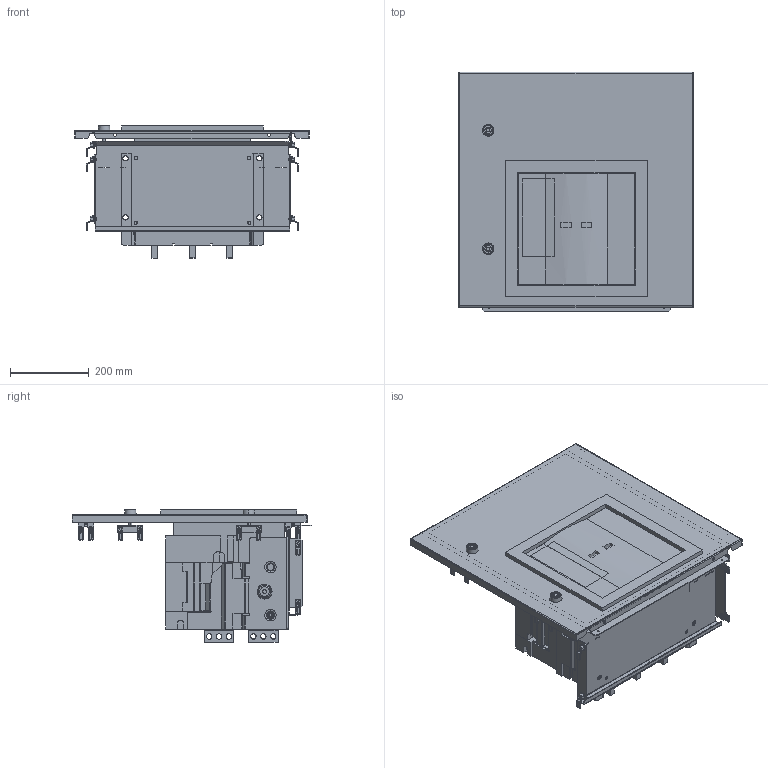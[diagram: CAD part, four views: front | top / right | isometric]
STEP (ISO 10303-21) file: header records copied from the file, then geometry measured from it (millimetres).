
FILE_DESCRIPTION(('CAx-IF Rec.Pracs.---Model Styling and Organization---1.2---2011-12-15','CAx-IF Rec.Pracs.---Geometric and Assembly Validation Properties---4.1---2014-06-16','CAx-IF Rec.Pracs.---PMI Polyline Presentation---2.0---2013-05-24'),'2;1');
FILE_NAME('R5PKEB7V61122.stp','2021-07-29T02:19:40+03:00',(''),(''),'STEP Interface 4.4 by CT CoreTechnologie','3D_Evolution4.4 by CT CoreTechnologie','');
FILE_SCHEMA(('AUTOMOTIVE_DESIGN { 1 0 10303 214 1 1 1 1 }'));
Length unit declared in the file: millimetre
Products named in the file (1): R5PKEB7V61122
Bounding box: 594 x 607.5 x 336 mm (x, y, z)
Surface area: 3327039.7 mm2 (no closed solid volume)
Topology: 0 solids, 82 shells, 4422 faces, 12113 edges, 7883 vertices
Faces by surface type: plane 2526, cylinder 1383, bspline 513
Entity records: 151804 total; most frequent: CARTESIAN_POINT 38719, ORIENTED_EDGE 24086, DIRECTION 22914, EDGE_CURVE 12043, VECTOR 8360, LINE 8360, VERTEX_POINT 7892, AXIS2_PLACEMENT_3D 7277
